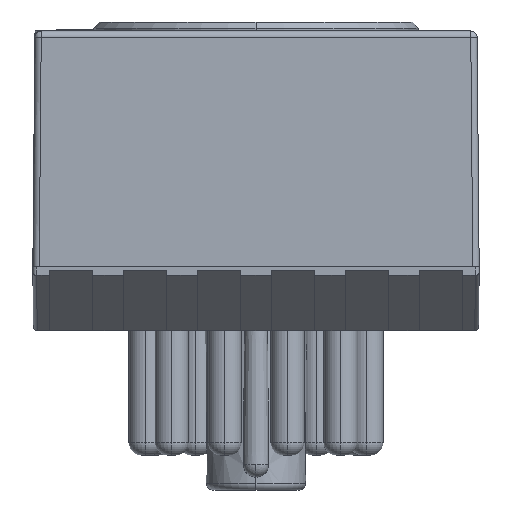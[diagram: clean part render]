
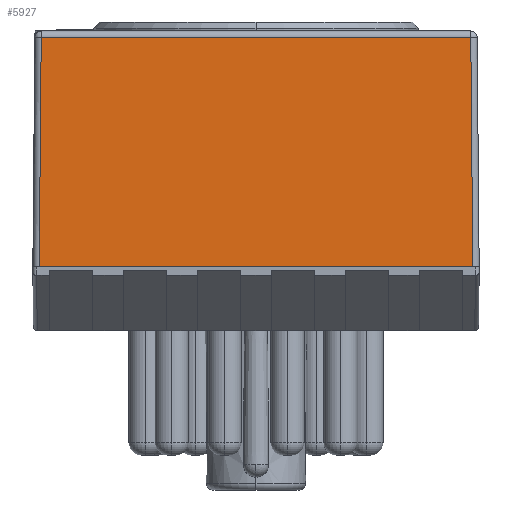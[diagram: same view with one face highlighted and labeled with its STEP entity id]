
A CAD part, front view. The second image highlights one B-rep face of the part: STEP entity #5927.
In plain terms, the highlighted planar face has unit normal (0, -1, 0.009).
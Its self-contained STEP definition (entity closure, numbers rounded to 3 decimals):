
#1368 = ORIENTED_EDGE ( 'NONE', *, *, #35243, .T. ) ;
#1463 = EDGE_CURVE ( 'NONE', #5665, #23310, #16739, .T. ) ;
#1545 = CARTESIAN_POINT ( 'NONE',  ( 34.5, 0., 17.496 ) ) ;
#1658 = EDGE_CURVE ( 'NONE', #6302, #23310, #14476, .T. ) ;
#3099 = DIRECTION ( 'NONE',  ( -0.009, -0.009, -1. ) ) ;
#5077 = CARTESIAN_POINT ( 'NONE',  ( 34.343, 0.157, 35.504 ) ) ;
#5665 = VERTEX_POINT ( 'NONE', #19346 ) ;
#5927 = ADVANCED_FACE ( 'NONE', ( #15625 ), #26834, .T. ) ;
#6221 = CARTESIAN_POINT ( 'NONE',  ( 0.5, 0., 17.5 ) ) ;
#6302 = VERTEX_POINT ( 'NONE', #7878 ) ;
#6356 = CARTESIAN_POINT ( 'NONE',  ( 0.661, 0.157, 35.504 ) ) ;
#7878 = CARTESIAN_POINT ( 'NONE',  ( 0.657, 0.157, 35.504 ) ) ;
#8639 = AXIS2_PLACEMENT_3D ( 'NONE', #32850, #16336, #21687 ) ;
#11477 = VECTOR ( 'NONE', #21207, 1000. ) ;
#12345 = LINE ( 'NONE', #6356, #20571 ) ;
#12674 = CARTESIAN_POINT ( 'NONE',  ( 35., 0., 17.5 ) ) ;
#13893 = VERTEX_POINT ( 'NONE', #5077 ) ;
#14476 = LINE ( 'NONE', #22375, #29274 ) ;
#15625 = FACE_OUTER_BOUND ( 'NONE', #25319, .T. ) ;
#16336 = DIRECTION ( 'NONE',  ( 0., -1., 0.009 ) ) ;
#16739 = LINE ( 'NONE', #12674, #31306 ) ;
#19346 = CARTESIAN_POINT ( 'NONE',  ( 34.5, 0., 17.5 ) ) ;
#20571 = VECTOR ( 'NONE', #31291, 1000. ) ;
#21207 = DIRECTION ( 'NONE',  ( -0.009, 0.009, 1. ) ) ;
#21687 = DIRECTION ( 'NONE',  ( 0., -0.009, -1. ) ) ;
#21723 = LINE ( 'NONE', #1545, #11477 ) ;
#22375 = CARTESIAN_POINT ( 'NONE',  ( 0.503, 0.003, 17.801 ) ) ;
#23310 = VERTEX_POINT ( 'NONE', #6221 ) ;
#25319 = EDGE_LOOP ( 'NONE', ( #30725, #1368, #32195, #34043 ) ) ;
#26834 = PLANE ( 'NONE',  #8639 ) ;
#29274 = VECTOR ( 'NONE', #3099, 1000. ) ;
#30725 = ORIENTED_EDGE ( 'NONE', *, *, #31429, .T. ) ;
#31291 = DIRECTION ( 'NONE',  ( -1., 0., 0. ) ) ;
#31306 = VECTOR ( 'NONE', #34334, 1000. ) ;
#31429 = EDGE_CURVE ( 'NONE', #5665, #13893, #21723, .T. ) ;
#32195 = ORIENTED_EDGE ( 'NONE', *, *, #1658, .T. ) ;
#32850 = CARTESIAN_POINT ( 'NONE',  ( 35., 0., 17.5 ) ) ;
#34043 = ORIENTED_EDGE ( 'NONE', *, *, #1463, .F. ) ;
#34334 = DIRECTION ( 'NONE',  ( -1., 0., 0. ) ) ;
#35243 = EDGE_CURVE ( 'NONE', #13893, #6302, #12345, .T. ) ;
